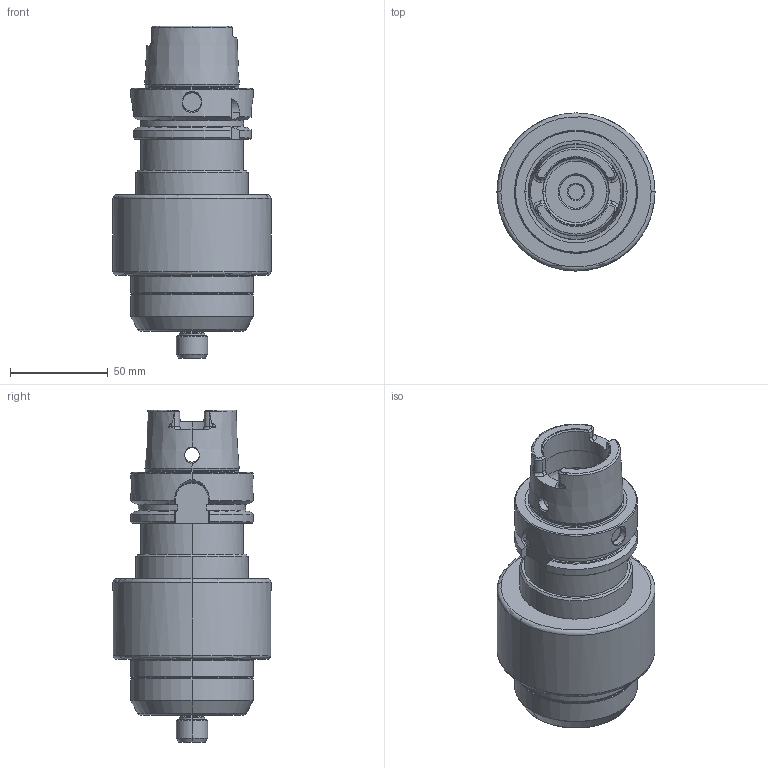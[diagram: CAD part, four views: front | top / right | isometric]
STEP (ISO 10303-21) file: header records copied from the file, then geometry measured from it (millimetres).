
FILE_DESCRIPTION(('CATIA V5 STEP','CAx-IF Rec.Pracs.--- Model Styling and Organization---1.2---2011-12-15'),'2;1');
FILE_NAME('\\nas01\drv1\utils\eitdev\rte\eit\transmagicconvert\db\out\635810973282836823\TJS XXK HSK A63X.stp','2015-10-22T04:56:03+00:00',('none'),('none'),'CATIA Version 5 Release 21 SP 5 (IN-10)','CATIA V5 STEP AP214','none');
FILE_SCHEMA(('AUTOMOTIVE_DESIGN { 1 0 10303 214 1 1 1 1 }'));
Length unit declared in the file: millimetre
Products named in the file (1): TJS XXK HSK A63X
Bounding box: 81 x 81 x 170.2 mm (x, y, z)
Volume: 446400 mm3; surface area: 50650.6 mm2
Topology: 1 solids, 1 shells, 271 faces, 850 edges, 591 vertices
Faces by surface type: cone 85, cylinder 82, plane 57, torus 46, bspline 1
Entity records: 13731 total; most frequent: CARTESIAN_POINT 6583, ORIENTED_EDGE 1696, DIRECTION 1008, EDGE_CURVE 848, VERTEX_POINT 591, AXIS2_PLACEMENT_3D 513, B_SPLINE_CURVE_WITH_KNOTS 384, EDGE_LOOP 287
